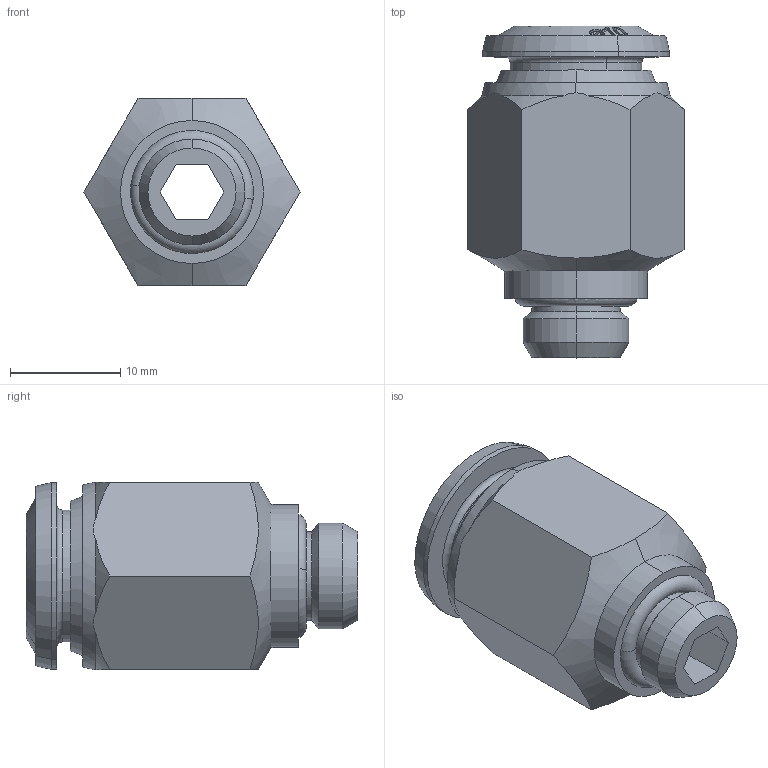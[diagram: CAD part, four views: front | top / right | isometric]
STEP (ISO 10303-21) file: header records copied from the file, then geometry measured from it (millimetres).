
FILE_DESCRIPTION (( 'STEP AP214' ), '1' );
FILE_NAME ('5002000030A.STEP', '2022-03-11T07:20:01', ( '' ), ( '' ), 'SwSTEP 2.0', 'SolidWorks 2020', '' );
FILE_SCHEMA (( 'AUTOMOTIVE_DESIGN' ));
Length unit declared in the file: millimetre
Products named in the file (1): 5002000030A
Bounding box: 19.63 x 30.15 x 17 mm (x, y, z)
Volume: 3904.2 mm3; surface area: 2849.2 mm2
Topology: 1 solids, 1 shells, 104 faces, 260 edges, 168 vertices
Faces by surface type: bspline 40, cone 29, plane 19, cylinder 12, torus 4
Entity records: 6804 total; most frequent: CARTESIAN_POINT 4573, ORIENTED_EDGE 520, DIRECTION 332, EDGE_CURVE 260, VERTEX_POINT 168, AXIS2_PLACEMENT_3D 119, EDGE_LOOP 116, B_SPLINE_CURVE_WITH_KNOTS 112
